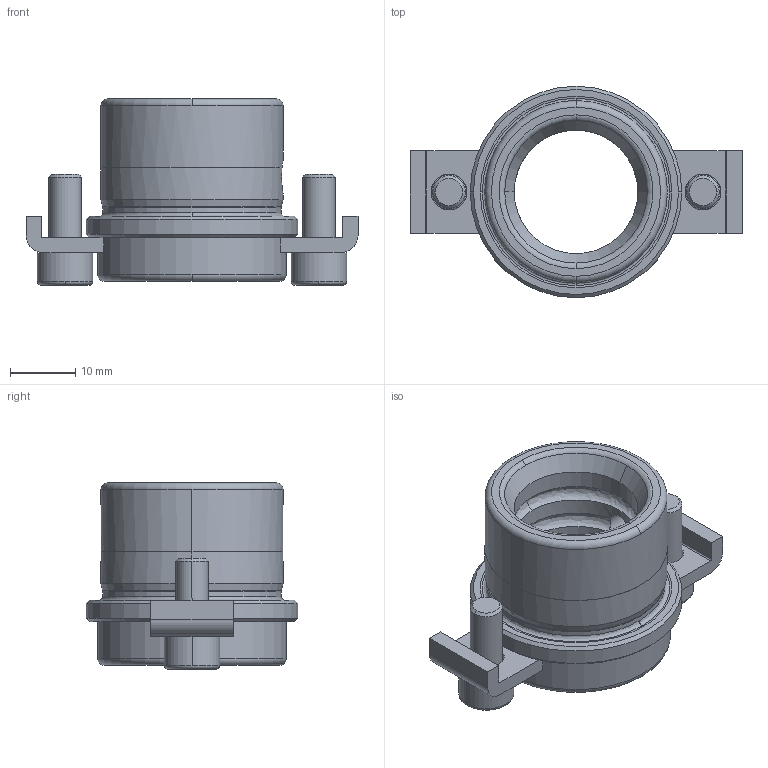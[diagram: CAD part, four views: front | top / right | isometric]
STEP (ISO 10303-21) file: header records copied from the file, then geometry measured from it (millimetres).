
FILE_DESCRIPTION((''),'2;1');
FILE_NAME('B12_019_010.stp','2008-11-04T11:36:00',(''),(''),'Mechanical Desktop 2009','Mechanical Desktop 2009',', , ');
FILE_SCHEMA(('CONFIG_CONTROL_DESIGN'));
Length unit declared in the file: millimetre
Products named in the file (5): Product; ProductAA; blmdl1; ProductA; blmdl1A
Assembly tree (2 placements, depth 3):
  Product
    ProductAA
      blmdl1
  ProductA
  blmdl1A
Bounding box: 51 x 32.5 x 28.6 mm (x, y, z)
Volume: 11185.4 mm3; surface area: 7127.4 mm2
Topology: 5 solids, 5 shells, 116 faces, 298 edges, 196 vertices
Faces by surface type: plane 39, cylinder 38, cone 14, bspline 13, torus 12
Entity records: 4669 total; most frequent: CARTESIAN_POINT 1524, DIRECTION 668, ORIENTED_EDGE 596, EDGE_CURVE 298, AXIS2_PLACEMENT_3D 274, VERTEX_POINT 196, CIRCLE 168, EDGE_LOOP 128
